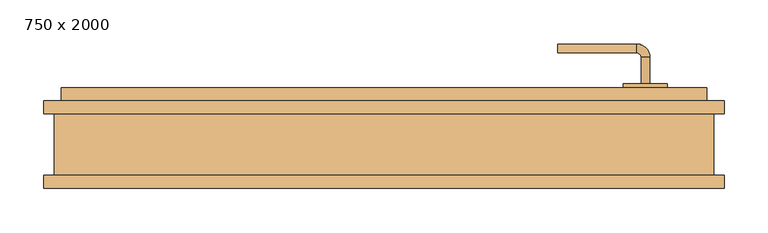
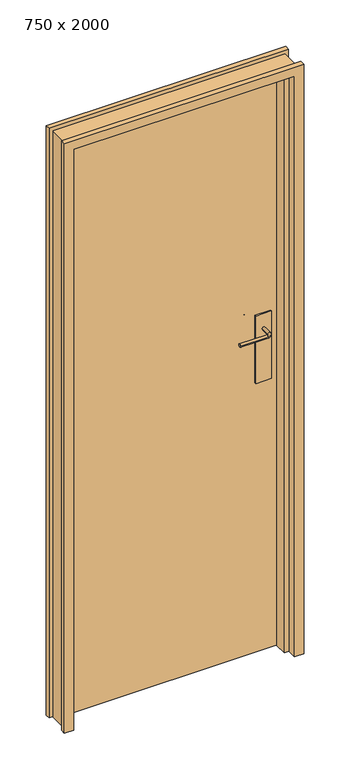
"""IFC4 building model written with IfcOpenShell, lengths in millimetres: door geometry, Door_Zeppelin-Rental-GmbH_Single-Leaf-Door : 750 x 2000."""

from ifc_helpers import new_model, si_unit, point, frame, origin, place, context, project, spatial, polyline, circle_curve, ellipse_curve, trimmed, outline, extrude, faceted_brep, source, transform, mapped, element, save
from ifc_brep_helpers import plane_surface, cylinder_surface, revolved_surface, advanced_brep


def door_750_x_2000_4c170372(model_context):
    return source(origin(), model_context, "Body", "SolidModel", [
        extrude(outline(polyline([(322.5, 19.5000092), (272.5, 19.5000092), (272.5, 24.5000092), (322.5, 24.5000092), (322.5, 19.5000092)])), frame((0.0, 0.0, 920.0), z_axis=(0.0, 0.0, 1.0), x_axis=(1.0, 0.0, 0.0)), (0.0, 0.0, 1.0), 230.0),
        advanced_brep(
        [(292.5, 36.5000092, 1100.0), (302.5, 36.5000092, 1100.0), (302.5, -10.4999908, 1100.0), (292.5, -10.4999908, 1100.0), (287.5, -15.4999908, 1100.0), (287.5, -25.4999908, 1100.0), (197.5007022, -15.4999908, 1100.0), (197.5007022, -25.4999908, 1100.0)],
        [
            (0, 1, circle_curve(frame((297.5, 36.5000092, 1100.0), z_axis=(0.0, 1.0, 0.0), x_axis=(1.0, 0.0, 0.0)), 5.0)),
            (1, 0, circle_curve(frame((297.5, 36.5000092, 1100.0), z_axis=(0.0, 1.0, 0.0), x_axis=(1.0, 0.0, 0.0)), 5.0)),
            (1, 2),
            (2, 3, circle_curve(frame((297.5, -10.4999908, 1100.0), z_axis=(0.0, 1.0, 0.0), x_axis=(1.0, 0.0, 0.0)), 5.0)),
            (3, 0),
            (3, 2, circle_curve(frame((297.5, -10.4999908, 1100.0), z_axis=(0.0, 1.0, 0.0), x_axis=(1.0, 0.0, 0.0)), 5.0)),
            (4, 3, circle_curve(frame((287.5, -10.4999908, 1100.0), z_axis=(0.0, 0.0, 1.0), x_axis=(1.0, 0.0, 0.0)), 5.0)),
            (2, 5, circle_curve(frame((287.5, -10.4999908, 1100.0), z_axis=(0.0, 0.0, -1.0), x_axis=(1.0, 0.0, 0.0)), 15.0)),
            (5, 4, circle_curve(frame((287.5, -20.4999908, 1100.0), z_axis=(1.0, 0.0, 0.0), x_axis=(0.0, -1.0, 0.0)), 5.0)),
            (4, 5, circle_curve(frame((287.5, -20.4999908, 1100.0), z_axis=(1.0, 0.0, 0.0), x_axis=(0.0, -1.0, 0.0)), 5.0)),
            (6, 7, circle_curve(frame((197.5007022, -20.4999908, 1100.0), z_axis=(-1.0, 0.0, 0.0), x_axis=(0.0, -1.0, 0.0)), 5.0)),
            (7, 6, circle_curve(frame((197.5007022, -20.4999908, 1100.0), z_axis=(-1.0, 0.0, 0.0), x_axis=(0.0, -1.0, 0.0)), 5.0)),
            (5, 7),
            (6, 4),
        ],
        [
            plane_surface(frame((297.5, 36.5000092, 1100.0), z_axis=(0.0, 1.0, 0.0), x_axis=(0.0, 0.0, 1.0))),
            cylinder_surface(frame((297.5, 36.5000092, 1100.0), z_axis=(0.0, 1.0, 0.0), x_axis=(1.0, 0.0, 0.0)), 5.0),
            revolved_surface(trimmed(ellipse_curve(frame((297.5, -10.4999908, 1100.0), z_axis=(0.0, 1.0, 0.0), x_axis=(1.0, 0.0, 0.0)), 5.0, 5.0), [point((302.5, -10.4999908, 1100.0))], [point((292.5, -10.4999908, 1100.0))], True, "CARTESIAN"), (287.5, -10.4999908, 1100.0), (0.0, 0.0, -1.0)),
            revolved_surface(trimmed(ellipse_curve(frame((297.5, -10.4999908, 1100.0), z_axis=(0.0, 1.0, 0.0), x_axis=(1.0, 0.0, 0.0)), 5.0, 5.0), [point((292.5, -10.4999908, 1100.0))], [point((302.5, -10.4999908, 1100.0))], True, "CARTESIAN"), (287.5, -10.4999908, 1100.0), (0.0, 0.0, -1.0)),
            plane_surface(frame((197.5007022, -20.4999908, 1100.0), z_axis=(-1.0, 0.0, 0.0), x_axis=(0.0, 0.0, 1.0))),
            cylinder_surface(frame((287.5, -20.4999908, 1100.0), z_axis=(1.0, 0.0, 0.0), x_axis=(0.0, -1.0, 0.0)), 5.0),
        ],
        [
            (0, [[1, 2]]),
            (1, [[-2, 3, 4, 5]]),
            (1, [[-1, -5, 6, -3]]),
            (2, [[7, -4, 8, 9]]),
            (3, [[-8, -6, -7, 10]]),
            (4, [[11, 12]]),
            (5, [[-9, 13, -11, 14]]),
            (5, [[-10, -14, -12, -13]]),
        ],
    ),
        extrude(outline(polyline([(272.5, 69.5000092), (322.5, 69.5000092), (322.5, 64.5000092), (272.5, 64.5000092), (272.5, 69.5000092)])), frame((0.0, 0.0, 920.0), z_axis=(0.0, 0.0, 1.0), x_axis=(1.0, 0.0, 0.0)), (0.0, 0.0, 1.0), 230.0),
        advanced_brep(
        [(302.5, 69.5000092, 1100.0), (292.5, 69.5000092, 1100.0), (302.5, 99.5000092, 1100.0), (292.5, 99.5000092, 1100.0), (287.5, 104.5000092, 1100.0), (287.5, 114.5000092, 1100.0), (197.5007022, 114.5000092, 1100.0), (197.5007022, 104.5000092, 1100.0)],
        [
            (0, 1, circle_curve(frame((297.5, 69.5000092, 1100.0), z_axis=(0.0, -1.0, 0.0), x_axis=(-1.0, 0.0, 0.0)), 5.0)),
            (1, 0, circle_curve(frame((297.5, 69.5000092, 1100.0), z_axis=(0.0, -1.0, 0.0), x_axis=(-1.0, 0.0, 0.0)), 5.0)),
            (0, 2),
            (2, 3, circle_curve(frame((297.5, 99.5000092, 1100.0), z_axis=(0.0, -1.0, 0.0), x_axis=(-1.0, 0.0, 0.0)), 5.0)),
            (3, 1),
            (3, 2, circle_curve(frame((297.5, 99.5000092, 1100.0), z_axis=(0.0, -1.0, 0.0), x_axis=(-1.0, 0.0, 0.0)), 5.0)),
            (4, 3, circle_curve(frame((287.5, 99.5000092, 1100.0), z_axis=(0.0, 0.0, -1.0), x_axis=(1.0, 0.0, 0.0)), 5.0)),
            (2, 5, circle_curve(frame((287.5, 99.5000092, 1100.0), z_axis=(0.0, 0.0, 1.0), x_axis=(1.0, 0.0, 0.0)), 15.0)),
            (5, 4, circle_curve(frame((287.5, 109.5000092, 1100.0), z_axis=(1.0, 0.0, 0.0), x_axis=(0.0, -1.0, 0.0)), 5.0)),
            (4, 5, circle_curve(frame((287.5, 109.5000092, 1100.0), z_axis=(1.0, 0.0, 0.0), x_axis=(0.0, -1.0, 0.0)), 5.0)),
            (6, 7, circle_curve(frame((197.5007022, 109.5000092, 1100.0), z_axis=(-1.0, 0.0, 0.0), x_axis=(0.0, -1.0, 0.0)), 5.0)),
            (7, 6, circle_curve(frame((197.5007022, 109.5000092, 1100.0), z_axis=(-1.0, 0.0, 0.0), x_axis=(0.0, -1.0, 0.0)), 5.0)),
            (5, 6),
            (7, 4),
        ],
        [
            plane_surface(frame((297.5, 69.5000092, 1100.0), z_axis=(0.0, -1.0, 0.0), x_axis=(0.0, 0.0, 1.0))),
            cylinder_surface(frame((297.5, 69.5000092, 1100.0), z_axis=(0.0, -1.0, 0.0), x_axis=(-1.0, 0.0, 0.0)), 5.0),
            revolved_surface(trimmed(ellipse_curve(frame((297.5, 99.5000092, 1100.0), z_axis=(0.0, -1.0, 0.0), x_axis=(-1.0, 0.0, 0.0)), 5.0, 5.0), [point((302.5, 99.5000092, 1100.0))], [point((292.5, 99.5000092, 1100.0))], True, "CARTESIAN"), (287.5, 99.5000092, 1100.0), (0.0, 0.0, 1.0)),
            revolved_surface(trimmed(ellipse_curve(frame((297.5, 99.5000092, 1100.0), z_axis=(0.0, -1.0, 0.0), x_axis=(-1.0, 0.0, 0.0)), 5.0, 5.0), [point((292.5, 99.5000092, 1100.0))], [point((302.5, 99.5000092, 1100.0))], True, "CARTESIAN"), (287.5, 99.5000092, 1100.0), (0.0, 0.0, 1.0)),
            plane_surface(frame((197.5007022, 109.5000092, 1100.0), z_axis=(-1.0, 0.0, 0.0), x_axis=(0.0, 0.0, 1.0))),
            cylinder_surface(frame((287.5, 109.5000092, 1100.0), z_axis=(1.0, 0.0, 0.0), x_axis=(0.0, -1.0, 0.0)), 5.0),
        ],
        [
            (0, [[1, 2]]),
            (1, [[-1, 3, 4, 5]]),
            (1, [[-2, -5, 6, -3]]),
            (2, [[7, -4, 8, 9]]),
            (3, [[-8, -6, -7, 10]]),
            (4, [[11, 12]]),
            (5, [[-9, 13, -12, 14]]),
            (5, [[-10, -14, -11, -13]]),
        ],
    ),
        faceted_brep([(-354.5, 24.5000092, 0.0), (-354.5, 50.0000092, 0.0), (-367.5, 50.0000092, 0.0), (-367.5, 64.5000092, 0.0), (367.5, 64.5000092, 0.0), (367.5, 50.0000092, 0.0), (354.5, 50.0000092, 0.0), (354.5, 24.5000092, 0.0), (354.5, 24.5000092, 1979.0), (-354.5, 24.5000092, 1979.0), (354.5, 50.0000092, 1979.0), (367.5, 50.0000092, 1992.0), (-367.5, 50.0000092, 1992.0), (-354.5, 50.0000092, 1979.0), (367.5, 64.5000092, 1992.0), (-367.5, 64.5000092, 1992.0)], [[[0, 1, 2, 3, 4, 5, 6, 7]], [[0, 7, 8, 9]], [[7, 6, 10, 8]], [[6, 5, 11, 12, 2, 1, 13, 10]], [[11, 5, 4, 14]], [[4, 3, 15, 14]], [[3, 2, 12, 15]], [[1, 0, 9, 13]], [[12, 11, 14, 15]], [[10, 13, 9, 8]]]),
        faceted_brep([(357.0, 50.0000092, 0.0), (387.0, 50.0000092, 0.0), (387.0, 35.0, 0.0), (375.0, 35.0, 0.0), (375.0, -35.0, 0.0), (387.0, -35.0, 0.0), (387.0, -50.0, 0.0), (357.0, -50.0, 0.0), (357.0, -19.9999908, 0.0), (342.0, -19.9999908, 0.0), (342.0, 22.0000092, 0.0), (357.0, 22.0000092, 0.0), (-357.0, 50.0000092, 0.0), (-357.0, 22.0000092, 0.0), (-342.0, 22.0000092, 0.0), (-342.0, -19.9999908, 0.0), (-357.0, -19.9999908, 0.0), (-357.0, -50.0, 0.0), (-387.0, -50.0, 0.0), (-387.0, -35.0, 0.0), (-375.0, -35.0, 0.0), (-375.0, 35.0, 0.0), (-387.0, 35.0, 0.0), (-387.0, 50.0000092, 0.0), (357.0, 50.0000092, 1982.0), (-357.0, 50.0000092, 1982.0), (-387.0, 50.0000092, 2012.0), (387.0, 50.0000092, 2012.0), (387.0, 35.0, 2012.0), (-387.0, 35.0, 2012.0), (-375.0, 35.0, 2000.0), (375.0, 35.0, 2000.0), (375.0, -35.0, 2000.0), (-375.0, -35.0, 2000.0), (-387.0, -35.0, 2012.0), (387.0, -35.0, 2012.0), (387.0, -50.0, 2012.0), (-387.0, -50.0, 2012.0), (-357.0, -50.0, 1982.0), (357.0, -50.0, 1982.0), (357.0, 22.0000092, 1982.0), (-357.0, 22.0000092, 1982.0), (357.0, -19.9999908, 1982.0), (-357.0, -19.9999908, 1982.0), (-342.0, -19.9999908, 1967.0), (342.0, -19.9999908, 1967.0), (342.0, 22.0000092, 1967.0), (-342.0, 22.0000092, 1967.0)], [[[0, 1, 2, 3, 4, 5, 6, 7, 8, 9, 10, 11]], [[12, 13, 14, 15, 16, 17, 18, 19, 20, 21, 22, 23]], [[1, 0, 24, 25, 12, 23, 26, 27]], [[2, 1, 27, 28]], [[3, 2, 28, 29, 22, 21, 30, 31]], [[4, 3, 31, 32]], [[5, 4, 32, 33, 20, 19, 34, 35]], [[6, 5, 35, 36]], [[7, 6, 36, 37, 18, 17, 38, 39]], [[0, 11, 40, 24]], [[28, 27, 26, 29]], [[32, 31, 30, 33]], [[36, 35, 34, 37]], [[24, 40, 41, 25]], [[29, 26, 23, 22]], [[33, 30, 21, 20]], [[37, 34, 19, 18]], [[25, 41, 13, 12]], [[8, 7, 39, 42]], [[9, 8, 42, 43, 16, 15, 44, 45]], [[10, 9, 45, 46]], [[11, 10, 46, 47, 14, 13, 41, 40]], [[42, 39, 38, 43]], [[46, 45, 44, 47]], [[43, 38, 17, 16]], [[47, 44, 15, 14]]]),
    ])


if __name__ == "__main__":
    model = new_model("IFC4")
    model_context = context("Model", 3, world=origin())
    ifc_project = project(units=[si_unit("LENGTHUNIT", "METRE", prefix="MILLI")], contexts=[model_context])
    site = spatial("IfcSite", under=ifc_project)
    building = spatial("IfcBuilding", under=site)
    placement = place(None, origin())
    door_750_x_2000_shape = door_750_x_2000_4c170372(model_context)
    element("IfcDoor", 1, ObjectType="Door_Zeppelin-Rental-GmbH_Single-Leaf-Door : 750 x 2000", at=placement, inside=building, context=model_context, shape_type="MappedRepresentation", body=[
        mapped(door_750_x_2000_shape, transform((0.0, 0.0, 0.0), x_axis=(1.0, 0.0, 0.0), y_axis=(0.0, 1.0, 0.0), z_axis=(0.0, 0.0, 1.0))),
    ])
    save(model, "model.ifc")
